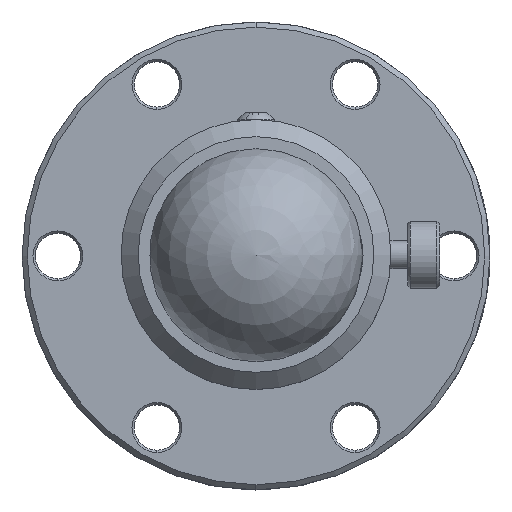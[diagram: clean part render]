
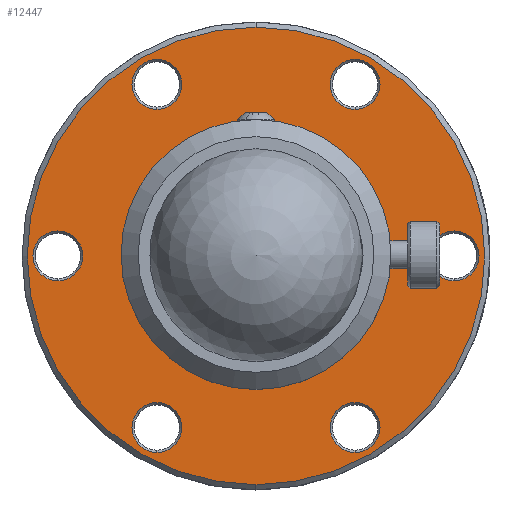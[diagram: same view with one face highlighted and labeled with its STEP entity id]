
A CAD part, top view. The second image highlights one B-rep face of the part: STEP entity #12447.
In plain terms, the highlighted planar face has unit normal (0, 0, 1).
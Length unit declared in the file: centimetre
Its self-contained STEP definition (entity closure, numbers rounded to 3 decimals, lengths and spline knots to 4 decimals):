
#879=PLANE('',#47161);
#2952=VERTEX_POINT('',#16255);
#2953=VERTEX_POINT('',#16257);
#2960=VERTEX_POINT('',#16273);
#2961=VERTEX_POINT('',#16275);
#2968=VERTEX_POINT('',#16291);
#2969=VERTEX_POINT('',#16293);
#2976=VERTEX_POINT('',#16309);
#2977=VERTEX_POINT('',#16311);
#2984=VERTEX_POINT('',#16327);
#2985=VERTEX_POINT('',#16329);
#2992=VERTEX_POINT('',#16360);
#2993=VERTEX_POINT('',#16362);
#3006=VERTEX_POINT('',#16400);
#3007=VERTEX_POINT('',#16401);
#3255=VERTEX_POINT('',#18648);
#4235=CIRCLE('',#47036,0.3697);
#4239=CIRCLE('',#47042,0.3697);
#4243=CIRCLE('',#47048,0.3697);
#4247=CIRCLE('',#47054,0.3697);
#4251=CIRCLE('',#47060,0.3697);
#4255=CIRCLE('',#47071,0.3697);
#4264=CIRCLE('',#47085,3.3909);
#4313=CIRCLE('',#47162,0.9525);
#4314=CIRCLE('',#47163,0.3697);
#4315=CIRCLE('',#47164,0.3697);
#4316=CIRCLE('',#47165,0.3697);
#4317=CIRCLE('',#47166,0.3697);
#4318=CIRCLE('',#47167,0.3697);
#4319=CIRCLE('',#47168,3.3909);
#4320=CIRCLE('',#47169,0.3697);
#4808=EDGE_CURVE('',#2953,#2952,#4235,.T.);
#4816=EDGE_CURVE('',#2961,#2960,#4239,.T.);
#4824=EDGE_CURVE('',#2969,#2968,#4243,.T.);
#4832=EDGE_CURVE('',#2977,#2976,#4247,.T.);
#4840=EDGE_CURVE('',#2985,#2984,#4251,.T.);
#4858=EDGE_CURVE('',#2993,#2992,#4255,.T.);
#4878=EDGE_CURVE('',#3006,#3007,#4264,.F.);
#5133=EDGE_CURVE('',#3255,#3255,#4313,.T.);
#5134=EDGE_CURVE('',#2952,#2953,#4314,.F.);
#5135=EDGE_CURVE('',#2960,#2961,#4315,.F.);
#5136=EDGE_CURVE('',#2968,#2969,#4316,.F.);
#5137=EDGE_CURVE('',#2976,#2977,#4317,.F.);
#5138=EDGE_CURVE('',#2984,#2985,#4318,.F.);
#5139=EDGE_CURVE('',#3007,#3006,#4319,.T.);
#5140=EDGE_CURVE('',#2992,#2993,#4320,.F.);
#7146=ORIENTED_EDGE('',*,*,#5133,.F.);
#7147=ORIENTED_EDGE('',*,*,#4808,.T.);
#7148=ORIENTED_EDGE('',*,*,#5134,.T.);
#7149=ORIENTED_EDGE('',*,*,#4816,.T.);
#7150=ORIENTED_EDGE('',*,*,#5135,.T.);
#7151=ORIENTED_EDGE('',*,*,#4824,.T.);
#7152=ORIENTED_EDGE('',*,*,#5136,.T.);
#7153=ORIENTED_EDGE('',*,*,#4832,.T.);
#7154=ORIENTED_EDGE('',*,*,#5137,.T.);
#7155=ORIENTED_EDGE('',*,*,#4840,.T.);
#7156=ORIENTED_EDGE('',*,*,#5138,.T.);
#7157=ORIENTED_EDGE('',*,*,#5139,.T.);
#7158=ORIENTED_EDGE('',*,*,#4878,.T.);
#7159=ORIENTED_EDGE('',*,*,#4858,.T.);
#7160=ORIENTED_EDGE('',*,*,#5140,.T.);
#10773=EDGE_LOOP('',(#7146));
#10774=EDGE_LOOP('',(#7147,#7148));
#10775=EDGE_LOOP('',(#7149,#7150));
#10776=EDGE_LOOP('',(#7151,#7152));
#10777=EDGE_LOOP('',(#7153,#7154));
#10778=EDGE_LOOP('',(#7155,#7156));
#10779=EDGE_LOOP('',(#7157,#7158));
#10780=EDGE_LOOP('',(#7159,#7160));
#11625=FACE_BOUND('',#10773,.T.);
#11626=FACE_BOUND('',#10774,.T.);
#11627=FACE_BOUND('',#10775,.T.);
#11628=FACE_BOUND('',#10776,.T.);
#11629=FACE_BOUND('',#10777,.T.);
#11630=FACE_BOUND('',#10778,.T.);
#11631=FACE_BOUND('',#10779,.T.);
#11632=FACE_BOUND('',#10780,.T.);
#12447=ADVANCED_FACE('',(#11625,#11626,#11627,#11628,#11629,#11630,#11631,
#11632),#879,.T.);
#13394=DIRECTION('',(0.,0.,-1.));
#13395=DIRECTION('',(0.,-0.37,0.));
#13410=DIRECTION('',(0.,0.,-1.));
#13411=DIRECTION('',(0.,-0.37,0.));
#13426=DIRECTION('',(0.,0.,-1.));
#13427=DIRECTION('',(0.,-0.37,0.));
#13442=DIRECTION('',(0.,0.,-1.));
#13443=DIRECTION('',(0.,-0.37,0.));
#13458=DIRECTION('',(0.,0.,-1.));
#13459=DIRECTION('',(0.,-0.37,0.));
#13494=DIRECTION('',(0.,0.,-1.));
#13495=DIRECTION('',(0.,-0.37,0.));
#13533=DIRECTION('',(0.,0.,-1.));
#13534=DIRECTION('',(0.,3.391,0.));
#13736=DIRECTION('',(0.,0.,1.));
#13737=DIRECTION('',(0.,0.,1.));
#13738=DIRECTION('',(0.,0.952,0.));
#13739=DIRECTION('',(0.,0.,1.));
#13740=DIRECTION('',(0.,-0.37,0.));
#13741=DIRECTION('',(0.,0.,1.));
#13742=DIRECTION('',(0.,-0.37,0.));
#13743=DIRECTION('',(0.,0.,1.));
#13744=DIRECTION('',(0.,-0.37,0.));
#13745=DIRECTION('',(0.,0.,1.));
#13746=DIRECTION('',(0.,-0.37,0.));
#13747=DIRECTION('',(0.,0.,1.));
#13748=DIRECTION('',(0.,-0.37,0.));
#13749=DIRECTION('',(0.,0.,1.));
#13750=DIRECTION('',(0.,3.391,0.));
#13751=DIRECTION('',(0.,0.,1.));
#13752=DIRECTION('',(0.,-0.37,0.));
#16255=CARTESIAN_POINT('',(1.4681,2.9125,1.1151));
#16256=CARTESIAN_POINT('',(1.4681,2.5429,1.1151));
#16257=CARTESIAN_POINT('',(1.4681,2.1732,1.1151));
#16273=CARTESIAN_POINT('',(-1.4681,2.9125,1.1151));
#16274=CARTESIAN_POINT('',(-1.4681,2.5429,1.1151));
#16275=CARTESIAN_POINT('',(-1.4681,2.1732,1.1151));
#16291=CARTESIAN_POINT('',(-2.9362,0.3697,1.1151));
#16292=CARTESIAN_POINT('',(-2.9362,0.,1.1151));
#16293=CARTESIAN_POINT('',(-2.9362,-0.3697,1.1151));
#16309=CARTESIAN_POINT('',(-1.4681,-2.1732,1.1151));
#16310=CARTESIAN_POINT('',(-1.4681,-2.5429,1.1151));
#16311=CARTESIAN_POINT('',(-1.4681,-2.9125,1.1151));
#16327=CARTESIAN_POINT('',(1.4681,-2.1732,1.1151));
#16328=CARTESIAN_POINT('',(1.4681,-2.5429,1.1151));
#16329=CARTESIAN_POINT('',(1.4681,-2.9125,1.1151));
#16360=CARTESIAN_POINT('',(2.9362,0.3697,1.1151));
#16361=CARTESIAN_POINT('',(2.9362,0.,1.1151));
#16362=CARTESIAN_POINT('',(2.9362,-0.3697,1.1151));
#16399=CARTESIAN_POINT('',(0.,0.,
1.1151));
#16400=CARTESIAN_POINT('',(0.,-3.3909,1.1151));
#16401=CARTESIAN_POINT('',(0.,3.3909,1.1151));
#18646=CARTESIAN_POINT('',(0.,0.,
1.1151));
#18647=CARTESIAN_POINT('',(0.,0.,1.1151));
#18648=CARTESIAN_POINT('',(0.,-0.9525,1.1151));
#18649=CARTESIAN_POINT('',(1.4681,2.5429,1.1151));
#18650=CARTESIAN_POINT('',(-1.4681,2.5429,1.1151));
#18651=CARTESIAN_POINT('',(-2.9362,0.,1.1151));
#18652=CARTESIAN_POINT('',(-1.4681,-2.5429,1.1151));
#18653=CARTESIAN_POINT('',(1.4681,-2.5429,1.1151));
#18654=CARTESIAN_POINT('',(0.,0.,
1.1151));
#18655=CARTESIAN_POINT('',(2.9362,0.,1.1151));
#47036=AXIS2_PLACEMENT_3D('',#16256,#13394,#13395);
#47042=AXIS2_PLACEMENT_3D('',#16274,#13410,#13411);
#47048=AXIS2_PLACEMENT_3D('',#16292,#13426,#13427);
#47054=AXIS2_PLACEMENT_3D('',#16310,#13442,#13443);
#47060=AXIS2_PLACEMENT_3D('',#16328,#13458,#13459);
#47071=AXIS2_PLACEMENT_3D('',#16361,#13494,#13495);
#47085=AXIS2_PLACEMENT_3D('',#16399,#13533,#13534);
#47161=AXIS2_PLACEMENT_3D('',#18646,#13736,$);
#47162=AXIS2_PLACEMENT_3D('',#18647,#13737,#13738);
#47163=AXIS2_PLACEMENT_3D('',#18649,#13739,#13740);
#47164=AXIS2_PLACEMENT_3D('',#18650,#13741,#13742);
#47165=AXIS2_PLACEMENT_3D('',#18651,#13743,#13744);
#47166=AXIS2_PLACEMENT_3D('',#18652,#13745,#13746);
#47167=AXIS2_PLACEMENT_3D('',#18653,#13747,#13748);
#47168=AXIS2_PLACEMENT_3D('',#18654,#13749,#13750);
#47169=AXIS2_PLACEMENT_3D('',#18655,#13751,#13752);
